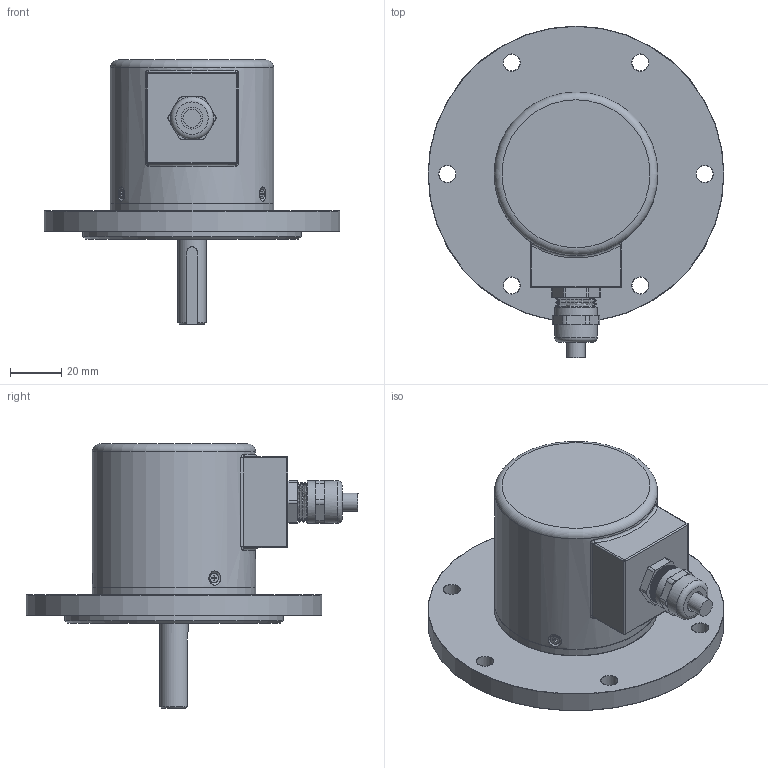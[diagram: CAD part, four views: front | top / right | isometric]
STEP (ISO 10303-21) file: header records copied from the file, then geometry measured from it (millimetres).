
FILE_DESCRIPTION(('FreeCAD Model'),'2;1');
FILE_NAME('Open CASCADE Shape Model','2026-08-04T14:58:38',(''),(''), 'Open CASCADE STEP processor 7.8','FreeCAD','Unknown');
FILE_SCHEMA(('AUTOMOTIVE_DESIGN { 1 0 10303 214 1 1 1 1 }'));
Length unit declared in the file: millimetre
Products named in the file (9): Assembly; 725 Lid Screw; 744 REO Body; 740 Series Bearing; 11mm Dia Shaft with Keyway for 744; Disc Hub; Disc Hub Grub Screw; PG9 Gland; Black Lid Side PG9 Gland
Assembly tree (12 placements, depth 2):
  Assembly
    725 Lid Screw  x3
    744 REO Body
    740 Series Bearing  x2
    11mm Dia Shaft with Keyway for 744
    Disc Hub
    Disc Hub Grub Screw  x2
    PG9 Gland
    Black Lid Side PG9 Gland
Bounding box: 115 x 129 x 102.6 mm (x, y, z)
Volume: 202383.3 mm3; surface area: 73406.4 mm2
Topology: 12 solids, 12 shells, 450 faces, 1021 edges, 625 vertices
Faces by surface type: plane 156, cylinder 112, bspline 94, torus 47, cone 35, sphere 4, revolution 2
Full cylindrical faces by diameter (mm): 1.45 x5, 1.85 x6, 2.1 x6, 2.35 x2, 2.5 x7, 2.85 x4, 3 x3, 3.3 x2, 3.8 x3, 6.5 x6, 7 x2, 7.87 x1, 8.5 x1, 9.525 x2, 11 x1, 12 x5, 15 x1, 16.45 x1, 16.5 x4, 16.6 x2, 23.8 x4, 25 x1, 28 x4, 54.86 x1, 58.93 x2, 59 x1, 63.5 x2, 85 x1, 115 x1
Entity records: 31175 total; most frequent: CARTESIAN_POINT 23019, ORIENTED_EDGE 1710, DIRECTION 1451, EDGE_CURVE 855, AXIS2_PLACEMENT_3D 591, VERTEX_POINT 532, FACE_BOUND 453, EDGE_LOOP 453
